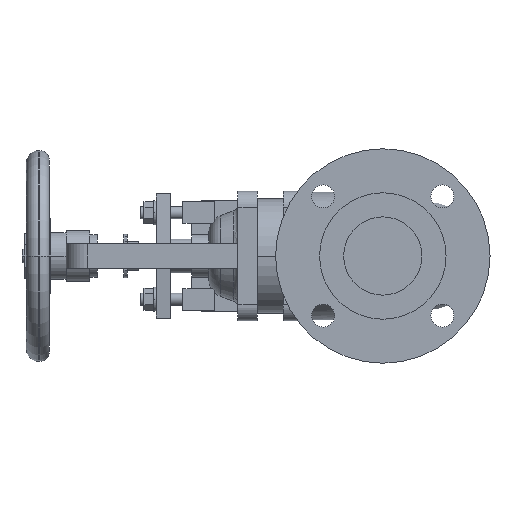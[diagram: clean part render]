
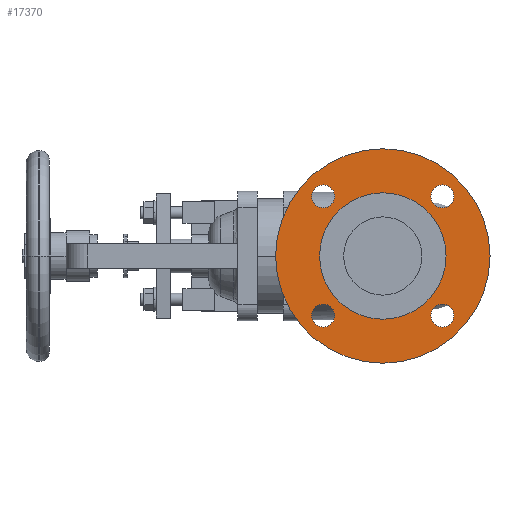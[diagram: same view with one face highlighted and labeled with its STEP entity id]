
A CAD part, left-side view. The second image highlights one B-rep face of the part: STEP entity #17370.
In plain terms, the highlighted planar face has unit normal (-1, 0, 0).
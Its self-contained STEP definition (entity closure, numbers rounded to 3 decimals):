
#4640=CARTESIAN_POINT('',(1.6,0.,-89.));
#4650=VERTEX_POINT('',#4640);
#4810=CARTESIAN_POINT('',(1.6,0.,89.));
#4820=VERTEX_POINT('',#4810);
#4850=CARTESIAN_POINT('',(1.6,0.,0.));
#4860=DIRECTION('',(1.,0.,0.));
#4870=DIRECTION('',(0.,0.,-1.));
#4880=AXIS2_PLACEMENT_3D('',#4850,#4860,#4870);
#4890=CIRCLE('',#4880,89.);
#4900=CARTESIAN_POINT('',(1.6,89.,0.));
#4910=VERTEX_POINT('',#4900);
#4920=EDGE_CURVE('',#4910,#4820,#4890,.T.);
#4940=EDGE_CURVE('',#4650,#4910,#4890,.T.);
#5170=CARTESIAN_POINT('',(1.6,49.497,
-39.997));
#5180=VERTEX_POINT('',#5170);
#5340=CARTESIAN_POINT('',(1.6,49.497,
-58.997));
#5350=VERTEX_POINT('',#5340);
#5380=CARTESIAN_POINT('',(1.6,49.497,
-49.497));
#5390=DIRECTION('',(-1.,0.,0.));
#5400=DIRECTION('',(0.,0.,-1.));
#5410=AXIS2_PLACEMENT_3D('',#5380,#5390,#5400);
#5420=CIRCLE('',#5410,9.5);
#5430=EDGE_CURVE('',#5180,#5350,#5420,.T.);
#5660=CARTESIAN_POINT('',(1.6,-49.497,
-39.997));
#5670=VERTEX_POINT('',#5660);
#5700=CARTESIAN_POINT('',(1.6,-49.497,
-49.497));
#5710=DIRECTION('',(-1.,0.,0.));
#5720=DIRECTION('',(0.,0.,-1.));
#5730=AXIS2_PLACEMENT_3D('',#5700,#5710,#5720);
#5740=CIRCLE('',#5730,9.5);
#5750=CARTESIAN_POINT('',(1.6,-49.497,
-58.997));
#5760=VERTEX_POINT('',#5750);
#5770=EDGE_CURVE('',#5760,#5670,#5740,.T.);
#6150=CARTESIAN_POINT('',(1.6,49.497,
39.997));
#6160=VERTEX_POINT('',#6150);
#6190=CARTESIAN_POINT('',(1.6,49.497,
49.497));
#6200=DIRECTION('',(-1.,0.,0.));
#6210=DIRECTION('',(0.,0.,-1.));
#6220=AXIS2_PLACEMENT_3D('',#6190,#6200,#6210);
#6230=CIRCLE('',#6220,9.5);
#6240=CARTESIAN_POINT('',(1.6,49.497,
58.997));
#6250=VERTEX_POINT('',#6240);
#6260=EDGE_CURVE('',#6250,#6160,#6230,.T.);
#6640=CARTESIAN_POINT('',(1.6,-49.497,
58.997));
#6650=VERTEX_POINT('',#6640);
#6810=CARTESIAN_POINT('',(1.6,-49.497,
39.997));
#6820=VERTEX_POINT('',#6810);
#6850=CARTESIAN_POINT('',(1.6,-49.497,
49.497));
#6860=DIRECTION('',(-1.,0.,0.));
#6870=DIRECTION('',(0.,0.,-1.));
#6880=AXIS2_PLACEMENT_3D('',#6850,#6860,#6870);
#6890=CIRCLE('',#6880,9.5);
#6900=EDGE_CURVE('',#6650,#6820,#6890,.T.);
#7130=CARTESIAN_POINT('',(1.6,52.5,0.));
#7140=VERTEX_POINT('',#7130);
#7170=CARTESIAN_POINT('',(1.6,0.,0.));
#7180=DIRECTION('',(-1.,0.,0.));
#7190=DIRECTION('',(0.,1.,0.));
#7200=AXIS2_PLACEMENT_3D('',#7170,#7180,#7190);
#7210=CIRCLE('',#7200,52.5);
#7220=CARTESIAN_POINT('',(1.6,-52.5,0.));
#7230=VERTEX_POINT('',#7220);
#7240=EDGE_CURVE('',#7230,#7140,#7210,.T.);
#17010=CARTESIAN_POINT('',(1.6,70.75,0.)
);
#17020=DIRECTION('',(1.,0.,0.));
#17030=DIRECTION('',(0.,-1.,0.));
#17040=AXIS2_PLACEMENT_3D('',#17010,#17020,#17030);
#17050=PLANE('',#17040);
#17060=ORIENTED_EDGE('',*,*,#7240,.F.);
#17070=EDGE_CURVE('',#7140,#7230,#7210,.T.);
#17080=ORIENTED_EDGE('',*,*,#17070,.F.);
#17090=EDGE_LOOP('',(#17080,#17060));
#17100=FACE_BOUND('',#17090,.T.);
#17110=ORIENTED_EDGE('',*,*,#4920,.F.);
#17120=EDGE_CURVE('',#4820,#4650,#4890,.T.);
#17130=ORIENTED_EDGE('',*,*,#17120,.F.);
#17140=ORIENTED_EDGE('',*,*,#4940,.F.);
#17150=EDGE_LOOP('',(#17140,#17130,#17110));
#17160=FACE_OUTER_BOUND('',#17150,.T.);
#17170=EDGE_CURVE('',#5350,#5180,#5420,.T.);
#17180=ORIENTED_EDGE('',*,*,#17170,.F.);
#17190=ORIENTED_EDGE('',*,*,#5430,.F.);
#17200=EDGE_LOOP('',(#17190,#17180));
#17210=FACE_BOUND('',#17200,.T.);
#17220=EDGE_CURVE('',#5670,#5760,#5740,.T.);
#17230=ORIENTED_EDGE('',*,*,#17220,.F.);
#17240=ORIENTED_EDGE('',*,*,#5770,.F.);
#17250=EDGE_LOOP('',(#17240,#17230));
#17260=FACE_BOUND('',#17250,.T.);
#17270=ORIENTED_EDGE('',*,*,#6260,.F.);
#17280=EDGE_CURVE('',#6160,#6250,#6230,.T.);
#17290=ORIENTED_EDGE('',*,*,#17280,.F.);
#17300=EDGE_LOOP('',(#17290,#17270));
#17310=FACE_BOUND('',#17300,.T.);
#17320=EDGE_CURVE('',#6820,#6650,#6890,.T.);
#17330=ORIENTED_EDGE('',*,*,#17320,.F.);
#17340=ORIENTED_EDGE('',*,*,#6900,.F.);
#17350=EDGE_LOOP('',(#17340,#17330));
#17360=FACE_BOUND('',#17350,.T.);
#17370=ADVANCED_FACE('',(#17100,#17160,#17210,#17260,#17310,#17360),
#17050,.F.);
